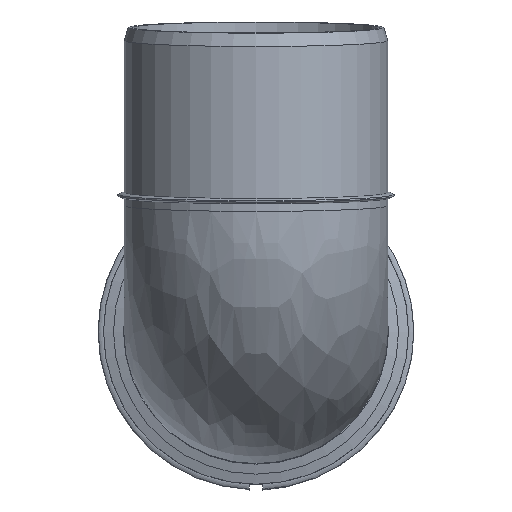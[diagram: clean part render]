
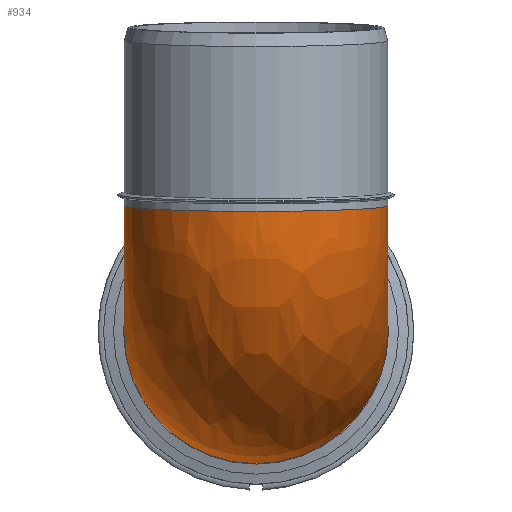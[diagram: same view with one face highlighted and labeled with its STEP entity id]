
A CAD part, left-side view. The second image highlights one B-rep face of the part: STEP entity #934.
In plain terms, the highlighted free-form (B-spline) face has degree [2, 2] with [9, 9] control points.
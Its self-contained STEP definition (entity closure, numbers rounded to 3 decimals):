
#38=(
BOUNDED_SURFACE()
B_SPLINE_SURFACE(2,2,((#1554,#1555,#1556,#1557,#1558,#1559,#1560,#1561,
#1562),(#1563,#1564,#1565,#1566,#1567,#1568,#1569,#1570,#1571),(#1572,#1573,
#1574,#1575,#1576,#1577,#1578,#1579,#1580),(#1581,#1582,#1583,#1584,#1585,
#1586,#1587,#1588,#1589),(#1590,#1591,#1592,#1593,#1594,#1595,#1596,#1597,
#1598),(#1599,#1600,#1601,#1602,#1603,#1604,#1605,#1606,#1607),(#1608,#1609,
#1610,#1611,#1612,#1613,#1614,#1615,#1616),(#1617,#1618,#1619,#1620,#1621,
#1622,#1623,#1624,#1625),(#1626,#1627,#1628,#1629,#1630,#1631,#1632,#1633,
#1634)),.UNSPECIFIED.,.T.,.T.,.F.)
B_SPLINE_SURFACE_WITH_KNOTS((3,2,2,2,3),(3,2,2,2,3),(-3.142,
-1.571,0.,1.571,3.142),(-3.142,
-1.571,0.,1.571,3.142),.UNSPECIFIED.)
GEOMETRIC_REPRESENTATION_ITEM()
RATIONAL_B_SPLINE_SURFACE(((1.,0.707,1.,0.707,1.,
0.707,1.,0.707,1.),(0.707,0.5,0.707,
0.5,0.707,0.5,0.707,0.5,0.707),(1.,
0.707,1.,0.707,1.,0.707,1.,0.707,
1.),(0.707,0.5,0.707,0.5,0.707,0.5,
0.707,0.5,0.707),(1.,0.707,1.,0.707,
1.,0.707,1.,0.707,1.),(0.707,0.5,0.707,
0.5,0.707,0.5,0.707,0.5,0.707),(1.,
0.707,1.,0.707,1.,0.707,1.,0.707,
1.),(0.707,0.5,0.707,0.5,0.707,0.5,
0.707,0.5,0.707),(1.,0.707,1.,0.707,
1.,0.707,1.,0.707,1.)))
REPRESENTATION_ITEM($)
SURFACE()
);
#156=FACE_OUTER_BOUND($,#236,.T.);
#236=EDGE_LOOP($,(#643,#644));
#356=CIRCLE($,#1023,55.1);
#357=CIRCLE($,#1024,55.1);
#449=VERTEX_POINT($,#1552);
#533=EDGE_CURVE($,#449,#449,#356,.T.);
#534=EDGE_CURVE($,#449,#449,#357,.T.);
#643=ORIENTED_EDGE($,*,*,#533,.T.);
#644=ORIENTED_EDGE($,*,*,#534,.F.);
#934=ADVANCED_FACE($,(#156),#38,.F.);
#1023=AXIS2_PLACEMENT_3D($,#1553,#1215,#1216);
#1024=AXIS2_PLACEMENT_3D($,#1635,#1217,#1218);
#1215=DIRECTION('center_axis',(-0.999,0.,-0.044));
#1216=DIRECTION('ref_axis',(-0.044,0.,0.999));
#1217=DIRECTION('center_axis',(0.,0.,-1.));
#1218=DIRECTION('ref_axis',(-1.,0.,0.));
#1552=CARTESIAN_POINT('',(55.1,0.,74.51));
#1553=CARTESIAN_POINT('Origin',(52.697,0.,129.558));
#1554=CARTESIAN_POINT('Ctrl Pts',(55.1,0.,74.51));
#1555=CARTESIAN_POINT('Ctrl Pts',(55.1,0.,74.51));
#1556=CARTESIAN_POINT('Ctrl Pts',(55.1,0.,74.51));
#1557=CARTESIAN_POINT('Ctrl Pts',(55.1,0.,74.51));
#1558=CARTESIAN_POINT('Ctrl Pts',(55.1,0.,74.51));
#1559=CARTESIAN_POINT('Ctrl Pts',(55.1,0.,74.51));
#1560=CARTESIAN_POINT('Ctrl Pts',(55.1,0.,74.51));
#1561=CARTESIAN_POINT('Ctrl Pts',(55.1,0.,74.51));
#1562=CARTESIAN_POINT('Ctrl Pts',(55.1,0.,74.51));
#1563=CARTESIAN_POINT('Ctrl Pts',(55.1,-55.1,74.51));
#1564=CARTESIAN_POINT('Ctrl Pts',(55.1,-55.1,74.51));
#1565=CARTESIAN_POINT('Ctrl Pts',(55.1,-55.1,74.51));
#1566=CARTESIAN_POINT('Ctrl Pts',(55.1,-55.1,74.51));
#1567=CARTESIAN_POINT('Ctrl Pts',(55.1,-55.1,74.51));
#1568=CARTESIAN_POINT('Ctrl Pts',(55.1,-55.1,74.51));
#1569=CARTESIAN_POINT('Ctrl Pts',(55.1,-55.1,74.51));
#1570=CARTESIAN_POINT('Ctrl Pts',(55.1,-55.1,74.51));
#1571=CARTESIAN_POINT('Ctrl Pts',(55.1,-55.1,74.51));
#1572=CARTESIAN_POINT('Ctrl Pts',(55.1,-55.1,19.41));
#1573=CARTESIAN_POINT('Ctrl Pts',(0.,-55.1,19.41));
#1574=CARTESIAN_POINT('Ctrl Pts',(0.,-55.1,74.51));
#1575=CARTESIAN_POINT('Ctrl Pts',(0.,-55.1,129.61));
#1576=CARTESIAN_POINT('Ctrl Pts',(55.1,-55.1,129.61));
#1577=CARTESIAN_POINT('Ctrl Pts',(110.2,-55.1,129.61));
#1578=CARTESIAN_POINT('Ctrl Pts',(110.2,-55.1,74.51));
#1579=CARTESIAN_POINT('Ctrl Pts',(110.2,-55.1,19.41));
#1580=CARTESIAN_POINT('Ctrl Pts',(55.1,-55.1,19.41));
#1581=CARTESIAN_POINT('Ctrl Pts',(55.1,-55.1,-35.69));
#1582=CARTESIAN_POINT('Ctrl Pts',(-55.1,-55.1,-35.69));
#1583=CARTESIAN_POINT('Ctrl Pts',(-55.1,-55.1,74.51));
#1584=CARTESIAN_POINT('Ctrl Pts',(-55.1,-55.1,184.71));
#1585=CARTESIAN_POINT('Ctrl Pts',(55.1,-55.1,184.71));
#1586=CARTESIAN_POINT('Ctrl Pts',(165.3,-55.1,184.71));
#1587=CARTESIAN_POINT('Ctrl Pts',(165.3,-55.1,74.51));
#1588=CARTESIAN_POINT('Ctrl Pts',(165.3,-55.1,-35.69));
#1589=CARTESIAN_POINT('Ctrl Pts',(55.1,-55.1,-35.69));
#1590=CARTESIAN_POINT('Ctrl Pts',(55.1,0.,-35.69));
#1591=CARTESIAN_POINT('Ctrl Pts',(-55.1,0.,-35.69));
#1592=CARTESIAN_POINT('Ctrl Pts',(-55.1,0.,74.51));
#1593=CARTESIAN_POINT('Ctrl Pts',(-55.1,0.,184.71));
#1594=CARTESIAN_POINT('Ctrl Pts',(55.1,0.,184.71));
#1595=CARTESIAN_POINT('Ctrl Pts',(165.3,0.,184.71));
#1596=CARTESIAN_POINT('Ctrl Pts',(165.3,0.,74.51));
#1597=CARTESIAN_POINT('Ctrl Pts',(165.3,0.,-35.69));
#1598=CARTESIAN_POINT('Ctrl Pts',(55.1,0.,-35.69));
#1599=CARTESIAN_POINT('Ctrl Pts',(55.1,55.1,-35.69));
#1600=CARTESIAN_POINT('Ctrl Pts',(-55.1,55.1,-35.69));
#1601=CARTESIAN_POINT('Ctrl Pts',(-55.1,55.1,74.51));
#1602=CARTESIAN_POINT('Ctrl Pts',(-55.1,55.1,184.71));
#1603=CARTESIAN_POINT('Ctrl Pts',(55.1,55.1,184.71));
#1604=CARTESIAN_POINT('Ctrl Pts',(165.3,55.1,184.71));
#1605=CARTESIAN_POINT('Ctrl Pts',(165.3,55.1,74.51));
#1606=CARTESIAN_POINT('Ctrl Pts',(165.3,55.1,-35.69));
#1607=CARTESIAN_POINT('Ctrl Pts',(55.1,55.1,-35.69));
#1608=CARTESIAN_POINT('Ctrl Pts',(55.1,55.1,19.41));
#1609=CARTESIAN_POINT('Ctrl Pts',(0.,55.1,19.41));
#1610=CARTESIAN_POINT('Ctrl Pts',(0.,55.1,74.51));
#1611=CARTESIAN_POINT('Ctrl Pts',(0.,55.1,129.61));
#1612=CARTESIAN_POINT('Ctrl Pts',(55.1,55.1,129.61));
#1613=CARTESIAN_POINT('Ctrl Pts',(110.2,55.1,129.61));
#1614=CARTESIAN_POINT('Ctrl Pts',(110.2,55.1,74.51));
#1615=CARTESIAN_POINT('Ctrl Pts',(110.2,55.1,19.41));
#1616=CARTESIAN_POINT('Ctrl Pts',(55.1,55.1,19.41));
#1617=CARTESIAN_POINT('Ctrl Pts',(55.1,55.1,74.51));
#1618=CARTESIAN_POINT('Ctrl Pts',(55.1,55.1,74.51));
#1619=CARTESIAN_POINT('Ctrl Pts',(55.1,55.1,74.51));
#1620=CARTESIAN_POINT('Ctrl Pts',(55.1,55.1,74.51));
#1621=CARTESIAN_POINT('Ctrl Pts',(55.1,55.1,74.51));
#1622=CARTESIAN_POINT('Ctrl Pts',(55.1,55.1,74.51));
#1623=CARTESIAN_POINT('Ctrl Pts',(55.1,55.1,74.51));
#1624=CARTESIAN_POINT('Ctrl Pts',(55.1,55.1,74.51));
#1625=CARTESIAN_POINT('Ctrl Pts',(55.1,55.1,74.51));
#1626=CARTESIAN_POINT('Ctrl Pts',(55.1,0.,74.51));
#1627=CARTESIAN_POINT('Ctrl Pts',(55.1,0.,74.51));
#1628=CARTESIAN_POINT('Ctrl Pts',(55.1,0.,74.51));
#1629=CARTESIAN_POINT('Ctrl Pts',(55.1,0.,74.51));
#1630=CARTESIAN_POINT('Ctrl Pts',(55.1,0.,74.51));
#1631=CARTESIAN_POINT('Ctrl Pts',(55.1,0.,74.51));
#1632=CARTESIAN_POINT('Ctrl Pts',(55.1,0.,74.51));
#1633=CARTESIAN_POINT('Ctrl Pts',(55.1,0.,74.51));
#1634=CARTESIAN_POINT('Ctrl Pts',(55.1,0.,74.51));
#1635=CARTESIAN_POINT('Origin',(0.,0.,74.51));
